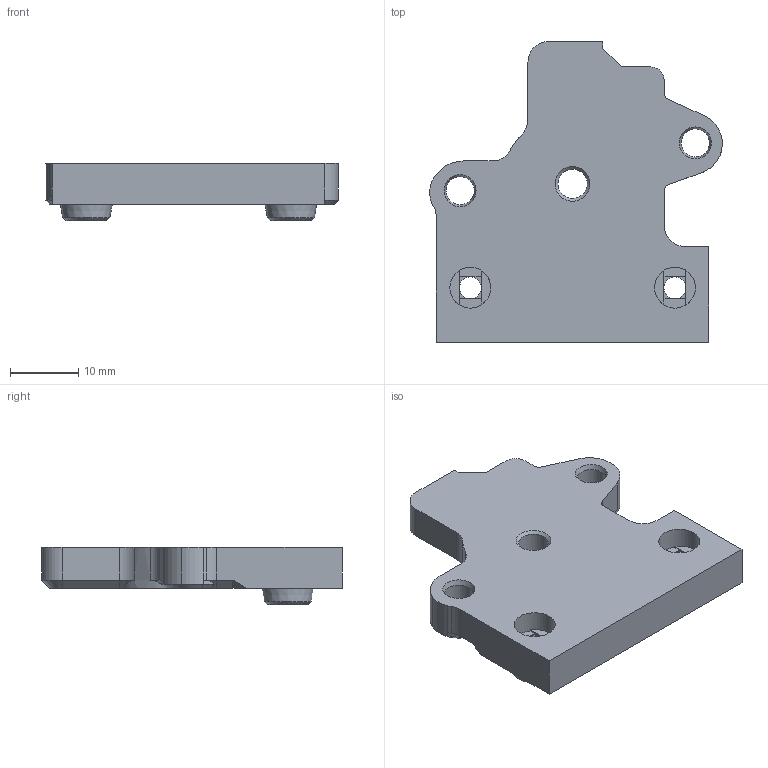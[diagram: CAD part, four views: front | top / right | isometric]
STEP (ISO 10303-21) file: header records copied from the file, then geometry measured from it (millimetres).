
FILE_DESCRIPTION(/* description */ (''),/* implementation_level */ '2;1');
FILE_NAME(/* name */ 'HMG7-Orbiter-V1.5-Rear-Mount.step',/* time_stamp */ '2022-11-01T22:23:38-07:00',/* author */ (''),/* organization */ (''),/* preprocessor_version */ 'ST-DEVELOPER v19.2',/* originating_system */ 'Autodesk Translation Framework v11.17.0.187',/* authorisation */ '');
FILE_SCHEMA (('AUTOMOTIVE_DESIGN { 1 0 10303 214 3 1 1 }'));
Length unit declared in the file: millimetre
Products named in the file (3): GEN_7_1.5; Orbiter_1.5; Orbiter_1.5_Rear
Assembly tree (2 placements, depth 3):
  GEN_7_1.5
    Orbiter_1.5
      Orbiter_1.5_Rear
Bounding box: 42.9 x 44.08 x 8.38 mm (x, y, z)
Volume: 7961.8 mm3; surface area: 4159.8 mm2
Topology: 1 solids, 1 shells, 99 faces, 248 edges, 153 vertices
Faces by surface type: plane 55, cone 21, cylinder 21, bspline 2
Full cylindrical faces by diameter (mm): 3.2 x2, 4.15 x2, 4.3 x1, 6 x2
Entity records: 3105 total; most frequent: CARTESIAN_POINT 629, DIRECTION 516, ORIENTED_EDGE 496, EDGE_CURVE 248, AXIS2_PLACEMENT_3D 181, LINE 154, VECTOR 154, VERTEX_POINT 153
